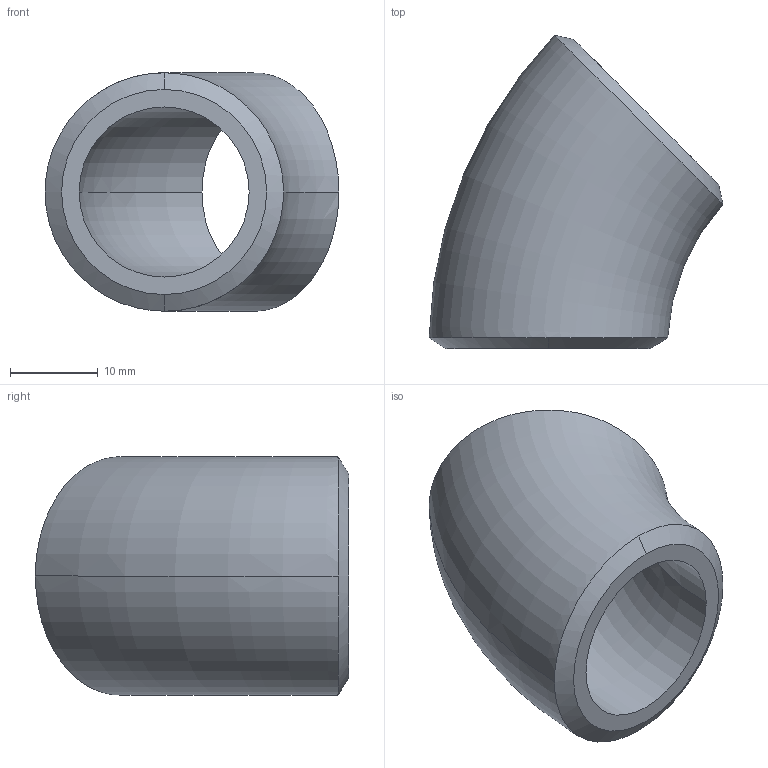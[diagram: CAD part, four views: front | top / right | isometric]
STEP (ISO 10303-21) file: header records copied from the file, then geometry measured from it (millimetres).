
FILE_DESCRIPTION (( 'STEP AP214' ), '1' );
FILE_NAME ('Elbow-long-45deg_Sch80-20A.STEP', '2022-05-11T01:04:20', ( 'ASIS User' ), ( 'ASIS User' ), 'SwSTEP 2.0', 'SolidWorks 2022', '' );
FILE_SCHEMA (( 'AUTOMOTIVE_DESIGN' ));
Length unit declared in the file: millimetre
Products named in the file (1): Elbow-long-45deg_Sch80-20A
Bounding box: 33.53 x 35.73 x 27.2 mm (x, y, z)
Volume: 8364.9 mm3; surface area: 4806.4 mm2
Topology: 1 solids, 1 shells, 10 faces, 22 edges, 14 vertices
Faces by surface type: torus 4, cone 4, plane 2
Entity records: 502 total; most frequent: CARTESIAN_POINT 241, DIRECTION 50, ORIENTED_EDGE 44, AXIS2_PLACEMENT_3D 23, EDGE_CURVE 22, VERTEX_POINT 14, EDGE_LOOP 12, CIRCLE 12
